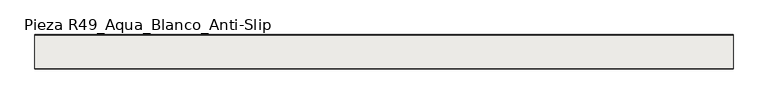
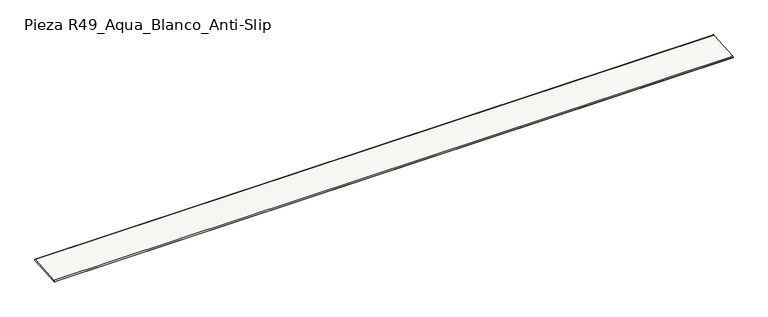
"""IFC4 building model written with IfcOpenShell, lengths in millimetres: slab geometry, ROSA GRES_R49 : Pieza R49_Aqua_Blanco_Anti-Slip."""

from ifc_helpers import new_model, si_unit, point, frame, frame_2d, origin, place, context, project, spatial, polyline, circle_curve, trimmed, segment, composite_curve, outline, extrude, source, transform, mapped, element, save


def pieza_r49_aqua_blanco_anti_slip_20b8c3bb(model_context):
    return source(origin(), model_context, "Body", "SweptSolid", [
        extrude(outline(composite_curve([segment(polyline([(70.1539646, 196.3880826), (70.0315861, 197.89159)]), True, "CONTINUOUS"), segment(trimmed(circle_curve(frame_2d((77.8482549, 197.189121)), 7.8481701), [point((70.0315861, 197.89159))], [point((76.6234074, 204.9411222))], False, "CARTESIAN"), True, "CONTINUOUS"), segment(polyline([(76.6234074, 204.9411222), (364.6716123, 228.3869063)]), True, "CONTINUOUS"), segment(trimmed(circle_curve(frame_2d((364.7862135, 226.9789488)), 1.4126139), [point((364.6716123, 228.3869063))], [point((365.5494776, 228.1676059))], False, "CARTESIAN"), True, "CONTINUOUS"), segment(polyline([(365.5494776, 228.1676059), (366.1749837, 220.4828167), (70.1539646, 196.3880826)]), True, "CONTINUOUS")], self_intersect=False)), frame((0.0, 0.0, 0.0), z_axis=(1.0, 0.0, 0.0), x_axis=(0.0, 1.0, 0.0)), (0.0, 0.0, 1.0), 6004.5),
    ])


if __name__ == "__main__":
    model = new_model("IFC4")
    model_context = context("Model", 3, world=origin())
    ifc_project = project(units=[si_unit("LENGTHUNIT", "METRE", prefix="MILLI")], contexts=[model_context])
    site = spatial("IfcSite", under=ifc_project)
    building = spatial("IfcBuilding", under=site)
    placement = place(None, origin())
    pieza_r49_aqua_blanco_anti_slip_shape = pieza_r49_aqua_blanco_anti_slip_20b8c3bb(model_context)
    element("IfcSlab", 1, ObjectType="ROSA GRES_R49 : Pieza R49_Aqua_Blanco_Anti-Slip", at=placement, inside=building, context=model_context, shape_type="MappedRepresentation", body=[
        mapped(pieza_r49_aqua_blanco_anti_slip_shape, transform((0.0, 0.0, 0.0), x_axis=(1.0, 0.0, 0.0), y_axis=(0.0, 1.0, 0.0), z_axis=(0.0, 0.0, 1.0))),
    ])
    save(model, "model.ifc")
